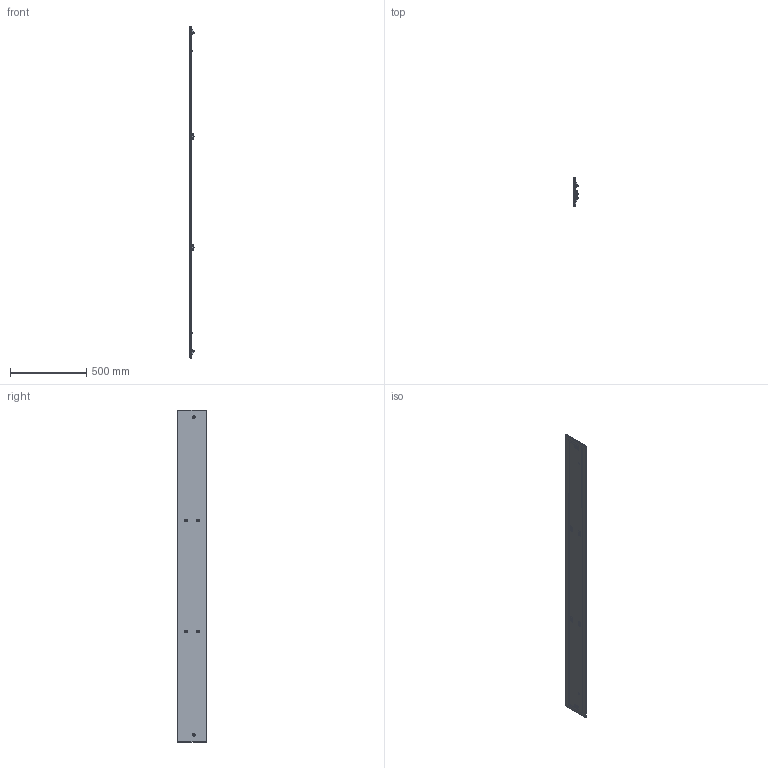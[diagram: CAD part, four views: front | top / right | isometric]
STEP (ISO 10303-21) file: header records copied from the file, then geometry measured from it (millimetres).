
FILE_DESCRIPTION(('STEP AP203'), '1');
FILE_NAME('3630 Ñåêöèîííàÿ ïàíåëü íà âèíòàõ (íà âñþ âûñîòó) ÑÁ', '', ('UNSPECIFIED'), ('UNSPECIFIED'), 'C3D Converter', 'C3D Toolkit', '');
FILE_SCHEMA(('CONFIG_CONTROL_DESIGN'));
Length unit declared in the file: millimetre
Products named in the file (10): 3630.220.20 СБ; 3631.220.20; 3632.220.20; 3604; 3654; 203-0655.61;  202-1103.15-00530
Assembly tree (36 placements, depth 3):
  3630.220.20 СБ
    3631.220.20
      3632.220.20
      (unnamed)  x2
    3604  x6
      3654
      (unnamed)
    203-0655.61  x6
     202-1103.15-00530  x6
    (unnamed)  x12
Bounding box: 31.95 x 191 x 2171 mm (x, y, z)
Volume: 1130989.9 mm3; surface area: 1178059.7 mm2
Topology: 40 solids, 40 shells, 1087 faces, 2674 edges, 1726 vertices
Faces by surface type: plane 589, cylinder 234, bspline 112, cone 86, torus 54, sphere 12
Full cylindrical faces by diameter (mm): 4 x6, 4.134 x6, 4.8 x12, 5 x6, 5.2 x12, 6 x2, 6.38 x6, 6.4 x6, 7.5 x12, 7.74 x6, 8.7 x6, 9.5 x12, 11.5 x4
Entity records: 12359 total; most frequent: CARTESIAN_POINT 4396, DIRECTION 1404, ORIENTED_EDGE 1240, EDGE_CURVE 620, AXIS2_PLACEMENT_3D 520, VERTEX_POINT 406, EDGE_LOOP 380, LINE 364
